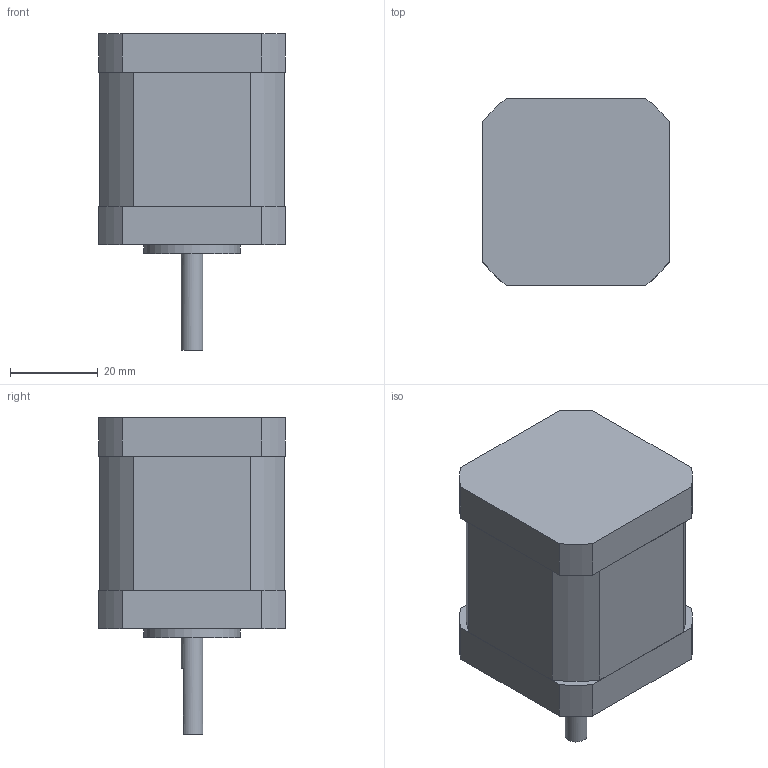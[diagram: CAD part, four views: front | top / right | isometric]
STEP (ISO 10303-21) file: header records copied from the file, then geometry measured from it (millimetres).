
FILE_DESCRIPTION(/* description */ ('STEP AP242 Edition 2','CAx-IF Rec.Pracs.---Representation and Presentation of Product Manufacturing Information (PMI)---4.0---2014-10-13','CAx-IF Rec.Pracs.---3D Tessellated Geometry---0.4---2014-09-14','2;1','CAx-IF Rec.Pracs.---User Defined Attributes---1.5---2016-08-15'),/* implementation_level */ '2;1');
FILE_NAME(/* name */ 'Final Build - Nema 17 stepper motor',/* time_stamp */ '2026-08-31T23:26:25Z',/* author */ (''),/* organization */ (''),/* preprocessor_version */ 'ST-DEVELOPER v20',/* originating_system */ 'ONSHAPE BY PTC INC, 1.220',/* authorisation */ ' ');
FILE_SCHEMA (('AP242_MANAGED_MODEL_BASED_3D_ENGINEERING_MIM_LF { 1 0 10303 442 3 1 4 }'));
Length unit declared in the file: metre
Products named in the file (1): Nema 17 stepper motor
Bounding box: 42.42 x 42.42 x 72 mm (x, y, z)
Volume: 82831.2 mm3; surface area: 11750.5 mm2
Topology: 1 solids, 1 shells, 50 faces, 116 edges, 76 vertices
Faces by surface type: plane 24, cylinder 22, cone 4
Full cylindrical faces by diameter (mm): 2.5 x4, 3 x4, 5 x1, 22 x1
Entity records: 1547 total; most frequent: DIRECTION 244, CARTESIAN_POINT 223, ORIENTED_EDGE 194, EDGE_CURVE 97, AXIS2_PLACEMENT_3D 96, FACE_BOUND 76, VERTEX_POINT 75, EDGE_LOOP 72
